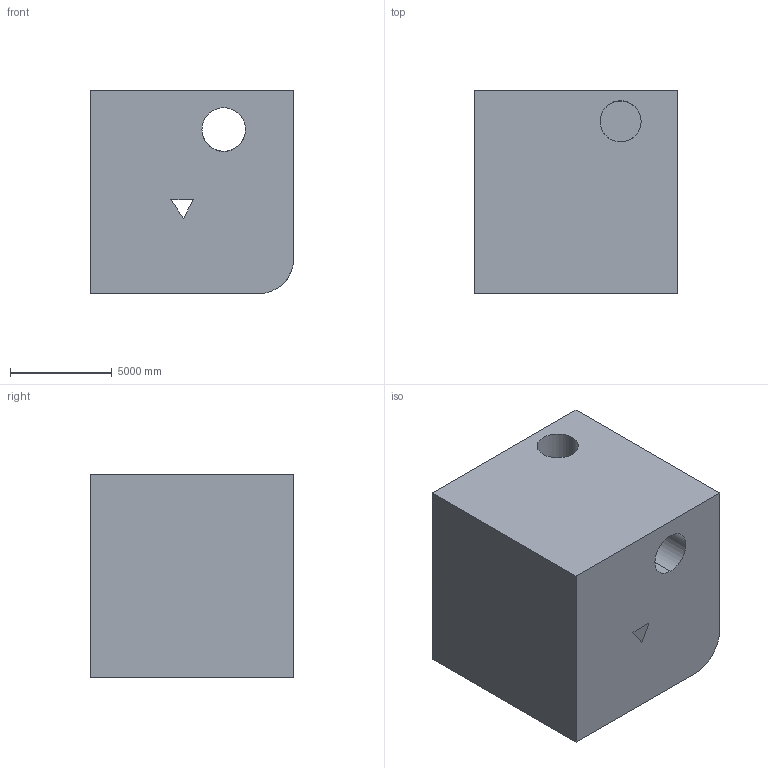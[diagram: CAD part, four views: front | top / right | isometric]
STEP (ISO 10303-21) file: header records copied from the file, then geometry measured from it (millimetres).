
FILE_DESCRIPTION (( 'STEP AP203' ), '1' );
FILE_NAME ('1768.STEP', '2022-08-19T12:43:54', ( 'user' ), ( '' ), 'SwSTEP 2.0', 'SolidWorks 2021', '' );
FILE_SCHEMA (( 'CONFIG_CONTROL_DESIGN' ));
Length unit declared in the file: centimetre
Products named in the file (1): 1768
Bounding box: 10000 x 10000 x 10000 mm (x, y, z)
Volume: 895658710611 mm3; surface area: 795833335.6 mm2
Topology: 1 solids, 1 shells, 32 faces, 93 edges, 62 vertices
Faces by surface type: plane 22, cylinder 10
Entity records: 1824 total; most frequent: CARTESIAN_POINT 892, ORIENTED_EDGE 186, DIRECTION 165, EDGE_CURVE 93, LINE 63, VECTOR 63, VERTEX_POINT 62, AXIS2_PLACEMENT_3D 51
